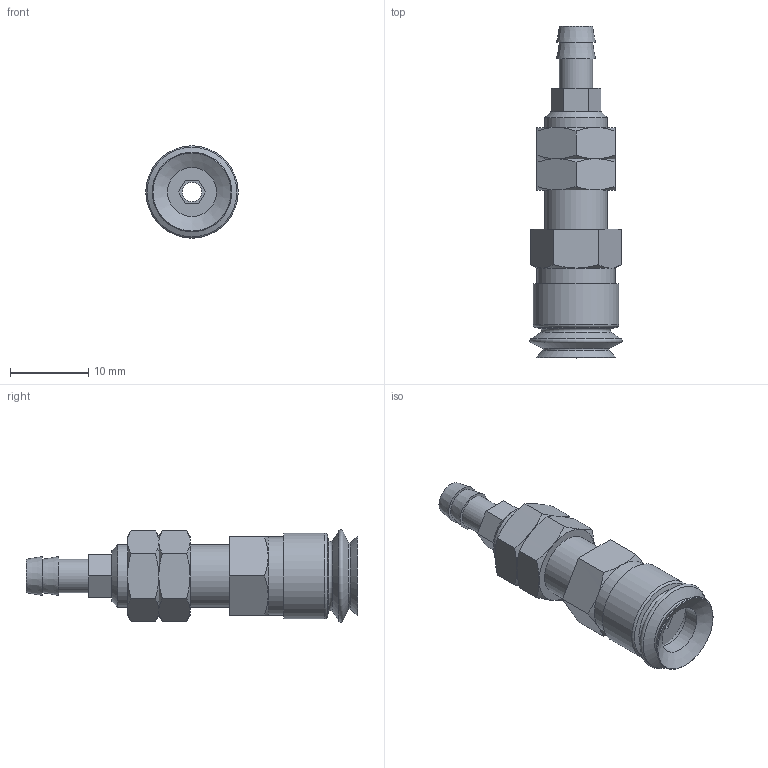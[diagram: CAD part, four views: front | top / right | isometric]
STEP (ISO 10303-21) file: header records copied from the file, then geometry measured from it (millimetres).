
FILE_DESCRIPTION(('STEP AP203'),'1');
FILE_NAME('.stp','2025-04-23T02:28:12',(' '),(' '),'Spatial InterOp 3D',' ',' ');
FILE_SCHEMA(('CONFIG_CONTROL_DESIGN'));
Length unit declared in the file: millimetre
Products named in the file (5): BBPJTK-10-※; NUT-10-PJ_K; Adapter-10-PJ; PJTK-10; BPJG-10-※
Assembly tree (5 placements, depth 2):
  BBPJTK-10-※
    NUT-10-PJ_K  x2
    Adapter-10-PJ
    PJTK-10
    BPJG-10-※
Bounding box: 11.83 x 42.5 x 11.83 mm (x, y, z)
Volume: 2282.2 mm3; surface area: 2980.8 mm2
Topology: 5 solids, 5 shells, 116 faces, 248 edges, 151 vertices
Faces by surface type: plane 49, cone 46, cylinder 14, torus 7
Full cylindrical faces by diameter (mm): 2.5 x1, 3 x1, 4.134 x1, 4.26 x1, 4.6 x1, 5 x1, 6.266 x1, 6.647 x2, 7.8 x1, 8 x2, 10 x1, 11 x1
Entity records: 2752 total; most frequent: CARTESIAN_POINT 691, DIRECTION 382, ORIENTED_EDGE 310, AXIS2_PLACEMENT_3D 164, EDGE_CURVE 155, EDGE_LOOP 144, FACE_OUTER_BOUND 113, VERTEX_POINT 113
